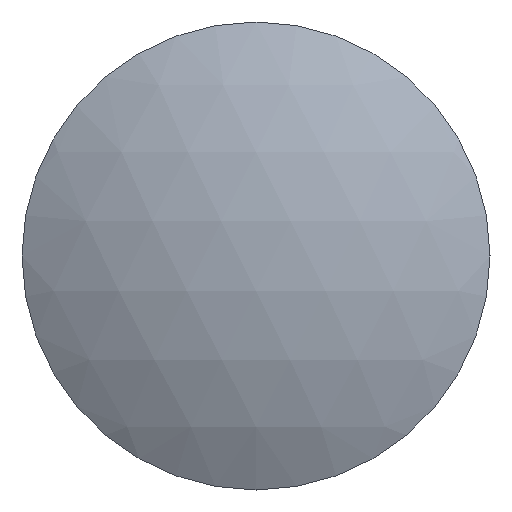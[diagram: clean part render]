
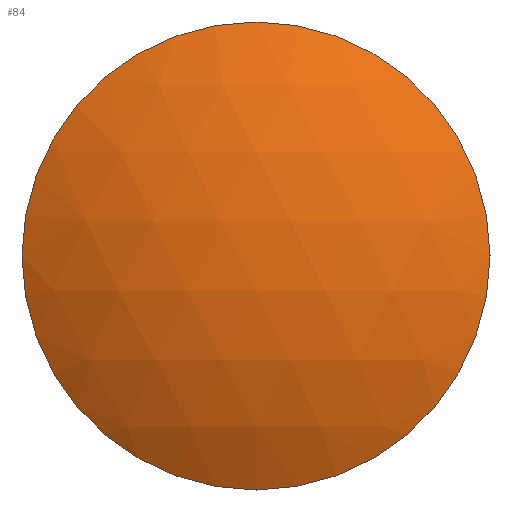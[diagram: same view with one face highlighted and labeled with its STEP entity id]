
A CAD part, front view. The second image highlights one B-rep face of the part: STEP entity #84.
In plain terms, the highlighted spherical face has radius 41.52 mm.
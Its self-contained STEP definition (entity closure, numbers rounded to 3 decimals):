
#68=CARTESIAN_POINT('',(0.0,29.22,0.0));
#69=DIRECTION('',(0.0,0.0,1.0));
#70=DIRECTION('',(1.0,0.0,0.0));
#71=AXIS2_PLACEMENT_3D('',#68,#69,#70);
#72=SPHERICAL_SURFACE('',#71,41.52);
#73=CARTESIAN_POINT('',(-20.0,-7.166,0.0));
#74=VERTEX_POINT('',#73);
#75=CARTESIAN_POINT('',(0.0,-7.166,0.0));
#76=DIRECTION('',(0.0,1.0,0.0));
#77=DIRECTION('',(-1.0,0.0,0.0));
#78=AXIS2_PLACEMENT_3D('',#75,#76,#77);
#79=CIRCLE('',#78,20.0);
#80=EDGE_CURVE('',#74,#74,#79,.T.);
#81=ORIENTED_EDGE('',*,*,#80,.F.);
#82=EDGE_LOOP('',(#81));
#83=FACE_OUTER_BOUND('',#82,.T.);
#84=ADVANCED_FACE('',(#83),#72,.T.);
